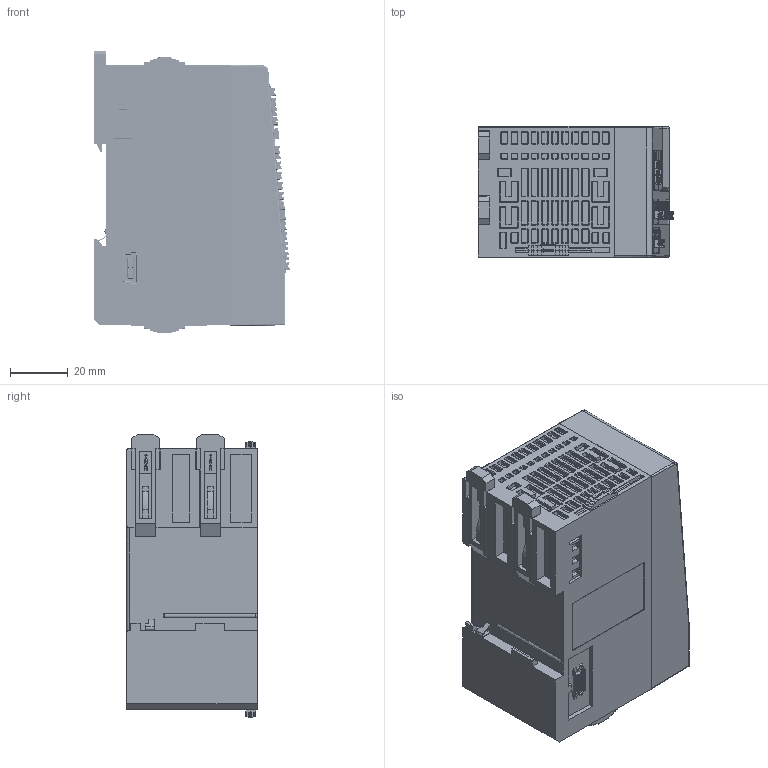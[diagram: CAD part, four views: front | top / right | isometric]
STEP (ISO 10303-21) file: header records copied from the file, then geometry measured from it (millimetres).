
FILE_DESCRIPTION(/* description */ (''),/* implementation_level */ '2;1');
FILE_NAME(/* name */ 'AX3000-3D.stp',/* time_stamp */ '2024-02-20T09:43:06+08:00',/* author */ (''),/* organization */ (''),/* preprocessor_version */ 'ST-DEVELOPER v16',/* originating_system */ 'SIEMENS PLM Software NX 10.0',/* authorisation */ '');
FILE_SCHEMA (('AP203_CONFIGURATION_CONTROLLED_3D_DESIGN_OF_MECHANICAL_PARTS_AND_ASSEMBLIES_MIM_LF { 1 0 10303 403 2 1 2}'));
Products named in the file (1): chao9E4465CC139z
Bounding box: 67.65 x 45.4 x 97.8 mm (x, y, z)
Volume: 259128.4 mm3; surface area: 60202.3 mm2
Topology: 18 solids, 20 shells, 8926 faces, 24487 edges, 15843 vertices
Faces by surface type: plane 6128, cylinder 1987, bspline 322, extrusion 194, torus 170, cone 123, sphere 2
Full cylindrical faces by diameter (mm): 0.6 x1, 0.8 x1
Entity records: 295968 total; most frequent: CARTESIAN_POINT 71079, ORIENTED_EDGE 48954, DIRECTION 43700, EDGE_CURVE 24477, VECTOR 18584, LINE 18390, VERTEX_POINT 15841, AXIS2_PLACEMENT_3D 12558
